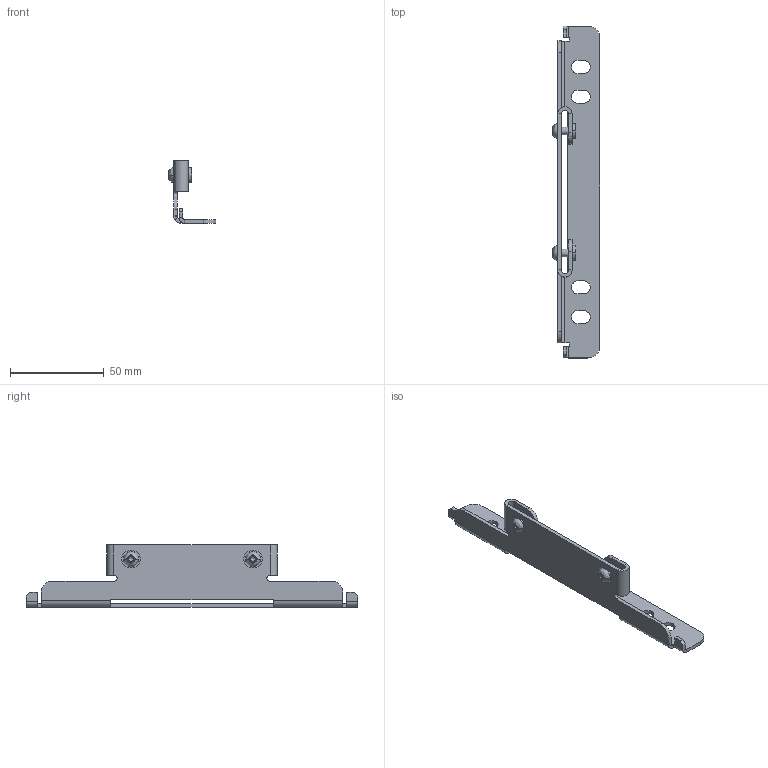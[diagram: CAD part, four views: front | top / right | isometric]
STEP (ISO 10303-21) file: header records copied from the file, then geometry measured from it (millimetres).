
FILE_DESCRIPTION((''),'2;1');
FILE_NAME('BKT_RACK_MOUNT_REAR_18-SLOT_PXI_ASM','2018-06-06T',('talbott'),(''),'CREO PARAMETRIC BY PTC INC, 2017480','CREO PARAMETRIC BY PTC INC, 2017480','');
FILE_SCHEMA(('AUTOMOTIVE_DESIGN { 1 0 10303 214 1 1 1 1 }'));
Length unit declared in the file: millimetre
Products named in the file (4): BKT_RACK_MOUNT_REAR_18-SLOT_PXI; CLS-M4-2; PNH_PHIL_M4007X08_SS; BKT_RACK_MOUNT_REAR_18-SLOT_PXI_ASM
Assembly tree (5 placements, depth 2):
  BKT_RACK_MOUNT_REAR_18-SLOT_PXI_ASM
    BKT_RACK_MOUNT_REAR_18-SLOT_PXI
    CLS-M4-2  x2
    PNH_PHIL_M4007X08_SS  x2
Bounding box: 25.37 x 177 x 33.27 mm (x, y, z)
Volume: 14021.6 mm3; surface area: 16896.6 mm2
Topology: 5 solids, 5 shells, 242 faces, 566 edges, 330 vertices
Faces by surface type: plane 152, cylinder 58, bspline 12, sphere 8, cone 8, torus 4
Entity records: 6825 total; most frequent: CARTESIAN_POINT 1085, DIRECTION 918, ORIENTED_EDGE 852, EDGE_CURVE 426, AXIS2_PLACEMENT_3D 319, VECTOR 280, LINE 280, VERTEX_POINT 274
